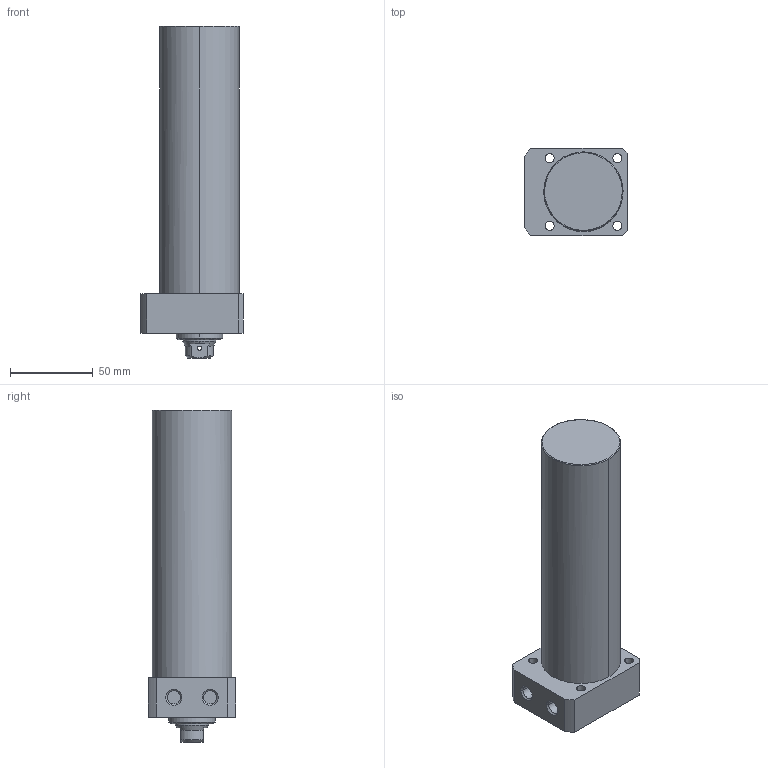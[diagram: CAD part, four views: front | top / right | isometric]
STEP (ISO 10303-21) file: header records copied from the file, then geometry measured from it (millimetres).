
FILE_DESCRIPTION((' '),'2;1');
FILE_NAME( 'TLLR-048CB-135.STEP.stp', '2025-10-24T16:34:34', (' '), ('--- Datakit www.datakit.com---'), ' Datakit CrossCadWare V2024.1 Dec 21 2023', 'Mastercam 2025', ' ');
FILE_SCHEMA(('AUTOMOTIVE_DESIGN { 1 0 10303 214 1 1 1 1 }'));
Length unit declared in the file: millimetre
Products named in the file (1): TLLR-048CB-135
Bounding box: 62 x 53 x 201 mm (x, y, z)
Volume: 371462.5 mm3; surface area: 39831.1 mm2
Topology: 1 solids, 1 shells, 67 faces, 197 edges, 136 vertices
Faces by surface type: cylinder 32, plane 19, cone 14, torus 2
Entity records: 3066 total; most frequent: CARTESIAN_POINT 1147, DIRECTION 426, ORIENTED_EDGE 390, EDGE_CURVE 195, AXIS2_PLACEMENT_3D 179, VERTEX_POINT 136, CIRCLE 111, EDGE_LOOP 85
